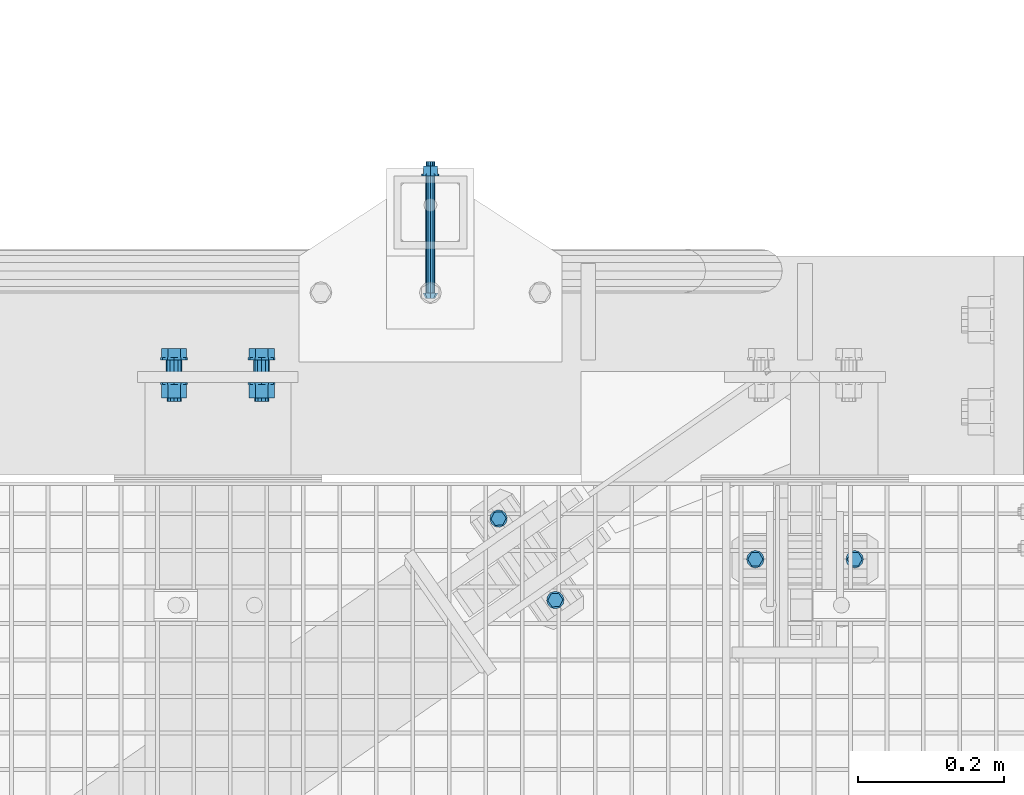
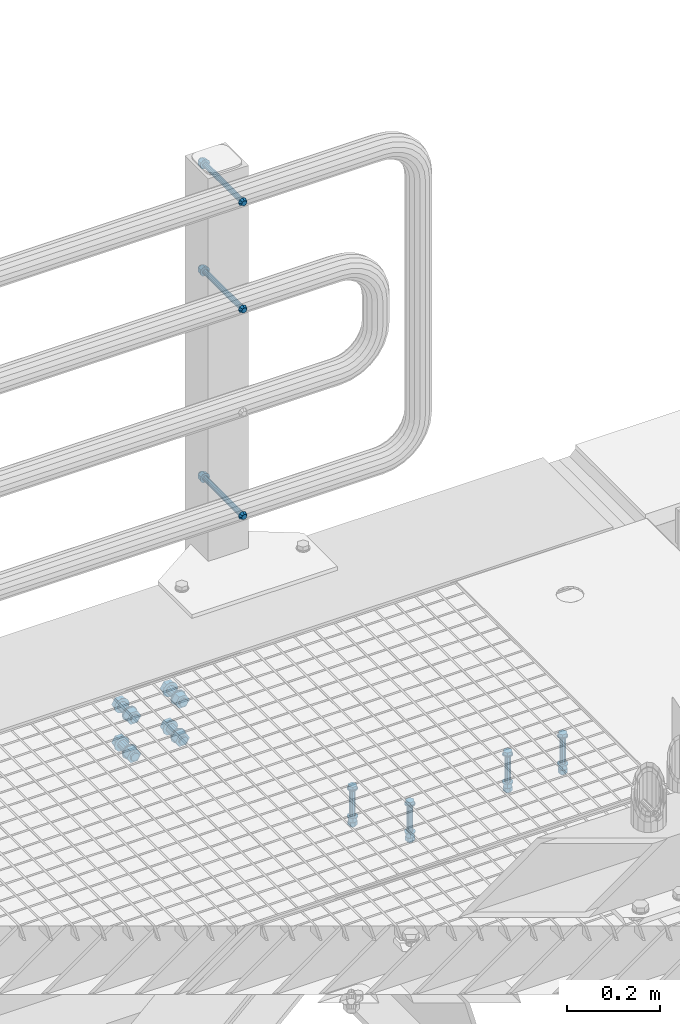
# One storey, part 57 of 1530: 6 mechanical fasteners.
"""IFC2X3 building model written with IfcOpenShell, lengths in millimetres."""

from ifc_helpers import new_model, si_unit, frame, origin_with_axes, place, context, subcontext, project, spatial, faceted_brep, source, transform, mapped, material, type_object, element, save


model = new_model("IFC2X3")

# Units and contexts
model_context = context("Model", 3, precision=1e-05, world=origin_with_axes())
body_context = subcontext(model_context, "Body", "Model", "MODEL_VIEW")
ifc_project = project(units=[si_unit("LENGTHUNIT", "METRE", prefix="MILLI"), si_unit("AREAUNIT", "SQUARE_METRE"), si_unit("VOLUMEUNIT", "CUBIC_METRE"), si_unit("MASSUNIT", "GRAM", prefix="KILO"), si_unit("TIMEUNIT", "SECOND"), si_unit("PLANEANGLEUNIT", "RADIAN"), si_unit("SOLIDANGLEUNIT", "STERADIAN"), si_unit("THERMODYNAMICTEMPERATUREUNIT", "DEGREE_CELSIUS"), si_unit("LUMINOUSINTENSITYUNIT", "LUMEN")], contexts=[model_context])

# Site, building, storey
site_placement = place(None, origin_with_axes())
site = spatial("IfcSite", under=ifc_project, at=site_placement, Name="Brattvåg", CompositionType="ELEMENT")
building_placement = place(site_placement, origin_with_axes())
building = spatial("IfcBuilding", under=site, at=building_placement, Name="Undefined", CompositionType="ELEMENT")
storey_placement = place(building_placement, origin_with_axes())
storey = spatial("IfcBuildingStorey", under=building, at=storey_placement, Name="Undefined", CompositionType="ELEMENT", Elevation=0.0)

# Mechanical fasteners
ifc_material = material(Name="8")
mechanical_fastener_type = type_object("IfcMechanicalFastenerType", Name="Bolt assembly")
shared_shape_1 = source(origin_with_axes(), body_context, "Body", "Brep", [
    faceted_brep([(10.3923048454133, -9.99999999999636, 0.0), (5.19615242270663, -9.99999999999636, 9.0), (-5.19615242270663, -9.99999999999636, 9.0), (-10.3923048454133, -9.99999999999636, 1.27269028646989e-15), (-5.19615242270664, -9.99999999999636, -9.0), (5.19615242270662, -9.99999999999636, -9.0), (5.19615242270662, -2.49999999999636, -9.0), (-5.19615242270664, -2.49999999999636, -9.0), (-10.3923048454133, -2.49999999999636, 1.27269028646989e-15), (-5.19615242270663, -2.49999999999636, 9.0), (5.19615242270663, -2.49999999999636, 9.0), (10.3923048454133, -2.49999999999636, 0.0), (6.0, -2.49999999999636, 0.0), (5.19615242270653, -2.49999999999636, 3.00000000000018), (2.99999999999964, -2.49999999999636, 5.19615242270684), (-6.21801588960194e-13, -2.49999999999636, 6.0), (-3.00000000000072, -2.49999999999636, 5.19615242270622), (-5.19615242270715, -2.49999999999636, 2.9999999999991), (-6.0, -2.49999999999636, -1.24360317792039e-12), (-5.19615242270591, -2.49999999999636, -3.00000000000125), (-2.99999999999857, -2.49999999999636, -5.19615242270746), (1.85874342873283e-12, -2.49999999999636, -6.0), (3.00000000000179, -2.49999999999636, -5.1961524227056), (5.19615242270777, -2.49999999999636, -2.99999999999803), (5.19615242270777, 97.4999999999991, -2.99999999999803), (3.00000000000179, 97.4999999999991, -5.1961524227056), (1.85874342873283e-12, 97.4999999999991, -6.0), (-2.99999999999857, 97.4999999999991, -5.19615242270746), (-5.19615242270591, 97.4999999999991, -3.00000000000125), (-6.0, 97.4999999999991, -1.24360317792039e-12), (-5.19615242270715, 97.4999999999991, 2.9999999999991), (-3.00000000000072, 97.4999999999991, 5.19615242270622), (-6.21801588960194e-13, 97.4999999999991, 6.0), (2.99999999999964, 97.4999999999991, 5.19615242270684), (5.19615242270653, 97.4999999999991, 3.00000000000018), (6.0, 97.4999999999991, 0.0), (12.0, -2.49999999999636, 0.0), (10.3923048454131, -2.49999999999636, 6.00000000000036), (5.99999999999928, -2.49999999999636, 10.3923048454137), (-1.24360317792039e-12, -2.49999999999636, 12.0), (-6.00000000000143, -2.49999999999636, 10.3923048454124), (-10.3923048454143, -2.49999999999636, 5.99999999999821), (-12.0, -2.49999999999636, -2.48720635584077e-12), (-10.3923048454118, -2.49999999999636, -6.00000000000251), (-5.99999999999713, -2.49999999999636, -10.3923048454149), (3.71748685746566e-12, -2.49999999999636, -12.0), (6.00000000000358, -2.49999999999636, -10.3923048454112), (10.3923048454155, -2.49999999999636, -5.99999999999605), (10.3923048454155, 3.63797880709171e-12, -5.99999999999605), (6.00000000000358, 3.63797880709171e-12, -10.3923048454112), (3.71748685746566e-12, 3.63797880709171e-12, -12.0), (-5.99999999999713, 3.63797880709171e-12, -10.3923048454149), (-10.3923048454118, 3.63797880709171e-12, -6.00000000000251), (-12.0, 3.63797880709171e-12, -2.48720635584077e-12), (-10.3923048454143, 3.63797880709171e-12, 5.99999999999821), (-6.00000000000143, 3.63797880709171e-12, 10.3923048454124), (-1.24360317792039e-12, 3.63797880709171e-12, 12.0), (5.99999999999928, 3.63797880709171e-12, 10.3923048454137), (10.3923048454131, 3.63797880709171e-12, 6.00000000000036), (12.0, 3.63797880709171e-12, 0.0), (12.0, 69.9999999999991, 0.0), (10.3923048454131, 69.9999999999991, 6.00000000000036), (5.99999999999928, 69.9999999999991, 10.3923048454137), (-1.24360317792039e-12, 69.9999999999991, 12.0), (-6.00000000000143, 69.9999999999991, 10.3923048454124), (-10.3923048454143, 69.9999999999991, 5.99999999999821), (-12.0, 69.9999999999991, -2.48720635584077e-12), (-10.3923048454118, 69.9999999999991, -6.00000000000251), (-5.99999999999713, 69.9999999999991, -10.3923048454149), (3.71748685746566e-12, 69.9999999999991, -12.0), (6.00000000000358, 69.9999999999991, -10.3923048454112), (10.3923048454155, 69.9999999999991, -5.99999999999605), (10.3923048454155, 72.4999999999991, -5.99999999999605), (6.00000000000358, 72.4999999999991, -10.3923048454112), (3.71748685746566e-12, 72.4999999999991, -12.0), (-5.99999999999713, 72.4999999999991, -10.3923048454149), (-10.3923048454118, 72.4999999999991, -6.00000000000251), (-12.0, 72.4999999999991, -2.48720635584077e-12), (-10.3923048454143, 72.4999999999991, 5.99999999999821), (-6.00000000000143, 72.4999999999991, 10.3923048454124), (-1.24360317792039e-12, 72.4999999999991, 12.0), (5.99999999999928, 72.4999999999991, 10.3923048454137), (10.3923048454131, 72.4999999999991, 6.00000000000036), (12.0, 72.4999999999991, 0.0), (10.3923048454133, 72.4999999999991, 0.0), (5.19615242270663, 72.4999999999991, 9.0), (-5.19615242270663, 72.4999999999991, 9.0), (-10.3923048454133, 72.4999999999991, 1.27269028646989e-15), (-5.19615242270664, 72.4999999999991, -9.0), (5.19615242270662, 72.4999999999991, -9.0), (5.19615242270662, 83.300000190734, -9.0), (-5.19615242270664, 83.300000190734, -9.0), (-10.3923048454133, 83.300000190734, 1.27269028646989e-15), (-5.19615242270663, 83.300000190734, 9.0), (5.19615242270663, 83.300000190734, 9.0), (10.3923048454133, 83.300000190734, 0.0), (9.0, 83.300000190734, 5.19615242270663), (6.36345143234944e-16, 83.300000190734, 10.3923048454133), (-9.0, 83.300000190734, 5.19615242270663), (-9.0, 83.300000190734, -5.19615242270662), (-1.11392563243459e-14, 83.300000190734, -10.3923048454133), (8.99999999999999, 83.300000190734, -5.19615242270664), (8.99999999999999, 94.1000003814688, -5.19615242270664), (-1.11392563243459e-14, 94.1000003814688, -10.3923048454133), (-9.0, 94.1000003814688, -5.19615242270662), (-9.0, 94.1000003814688, 5.19615242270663), (6.36345143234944e-16, 94.1000003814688, 10.3923048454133), (9.0, 94.1000003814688, 5.19615242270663)], [[[0, 1, 2, 3, 4, 5]], [[6, 7, 8, 9, 10, 11]], [[0, 11, 10, 1]], [[1, 10, 9, 2]], [[2, 9, 8, 3]], [[3, 8, 7, 4]], [[4, 7, 6, 5]], [[5, 6, 11, 0]], [[12, 13, 14, 15, 16, 17, 18, 19, 20, 21, 22, 23]], [[24, 25, 26, 27, 28, 29, 30, 31, 32, 33, 34, 35]], [[12, 35, 34, 13]], [[13, 34, 33, 14]], [[14, 33, 32, 15]], [[15, 32, 31, 16]], [[16, 31, 30, 17]], [[17, 30, 29, 18]], [[18, 29, 28, 19]], [[19, 28, 27, 20]], [[20, 27, 26, 21]], [[21, 26, 25, 22]], [[22, 25, 24, 23]], [[23, 24, 35, 12]], [[36, 37, 38, 39, 40, 41, 42, 43, 44, 45, 46, 47]], [[48, 49, 50, 51, 52, 53, 54, 55, 56, 57, 58, 59]], [[36, 59, 58, 37]], [[37, 58, 57, 38]], [[38, 57, 56, 39]], [[39, 56, 55, 40]], [[40, 55, 54, 41]], [[41, 54, 53, 42]], [[42, 53, 52, 43]], [[43, 52, 51, 44]], [[44, 51, 50, 45]], [[45, 50, 49, 46]], [[46, 49, 48, 47]], [[47, 48, 59, 36]], [[60, 61, 62, 63, 64, 65, 66, 67, 68, 69, 70, 71]], [[72, 73, 74, 75, 76, 77, 78, 79, 80, 81, 82, 83]], [[60, 83, 82, 61]], [[61, 82, 81, 62]], [[62, 81, 80, 63]], [[63, 80, 79, 64]], [[64, 79, 78, 65]], [[65, 78, 77, 66]], [[66, 77, 76, 67]], [[67, 76, 75, 68]], [[68, 75, 74, 69]], [[69, 74, 73, 70]], [[70, 73, 72, 71]], [[71, 72, 83, 60]], [[84, 85, 86, 87, 88, 89]], [[90, 91, 92, 93, 94, 95]], [[84, 95, 94, 85]], [[85, 94, 93, 86]], [[86, 93, 92, 87]], [[87, 92, 91, 88]], [[88, 91, 90, 89]], [[89, 90, 95, 84]], [[96, 97, 98, 99, 100, 101]], [[102, 103, 104, 105, 106, 107]], [[96, 107, 106, 97]], [[97, 106, 105, 98]], [[98, 105, 104, 99]], [[99, 104, 103, 100]], [[100, 103, 102, 101]], [[101, 102, 107, 96]]]),
    faceted_brep([(7.0, -9.09494701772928e-13, 0.0), (6.06217782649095, -9.09494701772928e-13, 3.50000000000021), (3.49999999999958, -9.09494701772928e-13, 6.06217782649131), (-7.25435187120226e-13, -9.09494701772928e-13, 7.0), (-3.50000000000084, -9.09494701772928e-13, 6.06217782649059), (-6.06217782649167, -9.09494701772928e-13, 3.49999999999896), (-7.0, -9.09494701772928e-13, -1.45087037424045e-12), (-6.06217782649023, -9.09494701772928e-13, -3.50000000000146), (-3.49999999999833, -9.09494701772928e-13, -6.06217782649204), (2.1685340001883e-12, -9.09494701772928e-13, -7.0), (3.50000000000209, -9.09494701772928e-13, -6.06217782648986), (6.0621778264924, -9.09494701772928e-13, -3.4999999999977), (6.0621778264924, 70.0999999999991, -3.4999999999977), (3.50000000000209, 70.0999999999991, -6.06217782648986), (2.1685340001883e-12, 70.0999999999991, -7.0), (-3.49999999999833, 70.0999999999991, -6.06217782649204), (-6.06217782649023, 70.0999999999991, -3.50000000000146), (-7.0, 70.0999999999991, -1.45087037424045e-12), (-6.06217782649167, 70.0999999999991, 3.49999999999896), (-3.50000000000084, 70.0999999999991, 6.06217782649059), (-7.25435187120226e-13, 70.0999999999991, 7.0), (3.49999999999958, 70.0999999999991, 6.06217782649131), (6.06217782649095, 70.0999999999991, 3.50000000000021), (7.0, 70.0999999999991, 0.0)], [[[0, 1, 2, 3, 4, 5, 6, 7, 8, 9, 10, 11]], [[12, 13, 14, 15, 16, 17, 18, 19, 20, 21, 22, 23]], [[0, 23, 22, 1]], [[1, 22, 21, 2]], [[2, 21, 20, 3]], [[3, 20, 19, 4]], [[4, 19, 18, 5]], [[5, 18, 17, 6]], [[6, 17, 16, 7]], [[7, 16, 15, 8]], [[8, 15, 14, 9]], [[9, 14, 13, 10]], [[10, 13, 12, 11]], [[11, 12, 23, 0]]]),
])
for number, where, z_axis, x_axis, name in (
    (1, (16490.0031207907, 8734.9958766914, -410.000000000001), (0.0, 1.0, 0.0), (1.0, 0.0, 0.0), "Bolt assembly"),
    (2, (16138.3722284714, 8790.63263868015, -410.000000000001), (0.820625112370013, 0.571466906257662, 0.0), (0.571466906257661, -0.820625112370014, 0.0), "Bolt assembly"),
):
    element("IfcMechanicalFastener", number, at=place(storey_placement, frame(where, z_axis=z_axis, x_axis=x_axis)), inside=storey, type_object=mechanical_fastener_type, material=ifc_material, Name=name, NominalDiameter=12.0, NominalLength=100.0, context=body_context, shape_type="MappedRepresentation", body=[
        mapped(shared_shape_1, transform((0.0, 0.0, 0.0))),
        mapped(shared_shape_1, transform((136.0, 0.0, 0.0))),
    ])
shared_shape_2 = source(origin_with_axes(), body_context, "Body", "Brep", [
    faceted_brep([(6.49435320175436, -7.49984019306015, 0.0), (4.59220118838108, -7.49984019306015, 4.59220118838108), (3.97664443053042e-16, -7.49984019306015, 6.49435320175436), (-4.59220118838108, -7.49984019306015, 4.59220118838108), (-6.49435320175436, -7.49984019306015, 7.95328886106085e-16), (-4.59220118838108, -7.49984019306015, -4.59220118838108), (-1.19299332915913e-15, -7.49984019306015, -6.49435320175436), (4.59220118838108, -7.49984019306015, -4.59220118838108), (7.34846922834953, 0.000159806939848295, -7.34846922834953), (-1.90903542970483e-15, 0.000159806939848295, -10.3923048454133), (-7.34846922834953, 0.000159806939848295, -7.34846922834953), (-10.3923048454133, 0.000159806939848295, 1.27269028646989e-15), (-7.34846922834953, 0.000159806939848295, 7.34846922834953), (6.36345143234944e-16, 0.000159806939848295, 10.3923048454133), (7.34846922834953, 0.000159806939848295, 7.34846922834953), (10.3923048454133, 0.000159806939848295, 0.0), (6.0, 0.000159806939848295, 0.0), (5.19615242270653, 0.000159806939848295, 3.00000000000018), (2.99999999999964, 0.000159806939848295, 5.19615242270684), (-6.21801588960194e-13, 0.000159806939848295, 6.0), (-3.00000000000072, 0.000159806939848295, 5.19615242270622), (-5.19615242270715, 0.000159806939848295, 2.9999999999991), (-6.0, 0.000159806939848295, -1.24360317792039e-12), (-5.19615242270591, 0.000159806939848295, -3.00000000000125), (-2.99999999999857, 0.000159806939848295, -5.19615242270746), (1.85874342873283e-12, 0.000159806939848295, -6.0), (3.00000000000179, 0.000159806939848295, -5.1961524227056), (5.19615242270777, 0.000159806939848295, -2.99999999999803), (5.19615242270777, 180.00015980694, -2.99999999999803), (3.00000000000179, 180.00015980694, -5.1961524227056), (1.85874342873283e-12, 180.00015980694, -6.0), (-2.99999999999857, 180.00015980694, -5.19615242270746), (-5.19615242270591, 180.00015980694, -3.00000000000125), (-6.0, 180.00015980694, -1.24360317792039e-12), (-5.19615242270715, 180.00015980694, 2.9999999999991), (-3.00000000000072, 180.00015980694, 5.19615242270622), (-6.21801588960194e-13, 180.00015980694, 6.0), (2.99999999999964, 180.00015980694, 5.19615242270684), (5.19615242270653, 180.00015980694, 3.00000000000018), (6.0, 180.00015980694, 0.0), (12.0, 160.299998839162, 0.0), (10.3923048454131, 160.299998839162, 6.00000000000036), (5.99999999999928, 160.299998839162, 10.3923048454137), (-1.24360317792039e-12, 160.299998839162, 12.0), (-6.00000000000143, 160.299998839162, 10.3923048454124), (-10.3923048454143, 160.299998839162, 5.99999999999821), (-12.0, 160.299998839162, -2.48720635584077e-12), (-10.3923048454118, 160.299998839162, -6.00000000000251), (-5.99999999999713, 160.299998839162, -10.3923048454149), (3.71748685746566e-12, 160.299998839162, -12.0), (6.00000000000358, 160.299998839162, -10.3923048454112), (10.3923048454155, 160.299998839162, -5.99999999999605), (10.3923048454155, 162.799998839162, -5.99999999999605), (6.00000000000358, 162.799998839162, -10.3923048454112), (3.71748685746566e-12, 162.799998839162, -12.0), (-5.99999999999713, 162.799998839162, -10.3923048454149), (-10.3923048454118, 162.799998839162, -6.00000000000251), (-12.0, 162.799998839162, -2.48720635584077e-12), (-10.3923048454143, 162.799998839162, 5.99999999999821), (-6.00000000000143, 162.799998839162, 10.3923048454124), (-1.24360317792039e-12, 162.799998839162, 12.0), (5.99999999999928, 162.799998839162, 10.3923048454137), (10.3923048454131, 162.799998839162, 6.00000000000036), (12.0, 162.799998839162, 0.0), (10.9696551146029, 162.799998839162, 0.0), (5.48482755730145, 162.799998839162, 9.5), (-5.48482755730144, 162.799998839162, 9.5), (-10.9696551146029, 162.799998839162, 1.34339530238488e-15), (-5.48482755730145, 162.799998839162, -9.5), (5.48482755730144, 162.799998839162, -9.5), (5.48482755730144, 173.599999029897, -9.5), (-5.48482755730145, 173.599999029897, -9.5), (-10.9696551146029, 173.599999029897, 1.34339530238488e-15), (-5.48482755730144, 173.599999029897, 9.5), (5.48482755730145, 173.599999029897, 9.5), (10.9696551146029, 173.599999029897, 0.0)], [[[0, 1, 2, 3, 4, 5, 6, 7]], [[8, 9, 10, 11, 12, 13, 14, 15]], [[0, 15, 14, 1]], [[1, 14, 13, 2]], [[2, 13, 12, 3]], [[3, 12, 11, 4]], [[4, 11, 10, 5]], [[5, 10, 9, 6]], [[6, 9, 8, 7]], [[7, 8, 15, 0]], [[16, 17, 18, 19, 20, 21, 22, 23, 24, 25, 26, 27]], [[28, 29, 30, 31, 32, 33, 34, 35, 36, 37, 38, 39]], [[16, 39, 38, 17]], [[17, 38, 37, 18]], [[18, 37, 36, 19]], [[19, 36, 35, 20]], [[20, 35, 34, 21]], [[21, 34, 33, 22]], [[22, 33, 32, 23]], [[23, 32, 31, 24]], [[24, 31, 30, 25]], [[25, 30, 29, 26]], [[26, 29, 28, 27]], [[27, 28, 39, 16]], [[40, 41, 42, 43, 44, 45, 46, 47, 48, 49, 50, 51]], [[52, 53, 54, 55, 56, 57, 58, 59, 60, 61, 62, 63]], [[40, 63, 62, 41]], [[41, 62, 61, 42]], [[42, 61, 60, 43]], [[43, 60, 59, 44]], [[44, 59, 58, 45]], [[45, 58, 57, 46]], [[46, 57, 56, 47]], [[47, 56, 55, 48]], [[48, 55, 54, 49]], [[49, 54, 53, 50]], [[50, 53, 52, 51]], [[51, 52, 63, 40]], [[64, 65, 66, 67, 68, 69]], [[70, 71, 72, 73, 74, 75]], [[64, 75, 74, 65]], [[65, 74, 73, 66]], [[66, 73, 72, 67]], [[67, 72, 71, 68]], [[68, 71, 70, 69]], [[69, 70, 75, 64]]]),
    faceted_brep([(6.5, 0.100159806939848, 0.0), (5.62916512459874, 0.100159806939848, 3.25000000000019), (3.24999999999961, 0.100159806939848, 5.62916512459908), (-6.7361838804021e-13, 0.100159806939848, 6.5), (-3.25000000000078, 0.100159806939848, 5.6291651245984), (-5.62916512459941, 0.100159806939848, 3.24999999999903), (-6.5, 0.100159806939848, -1.34723677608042e-12), (-5.62916512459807, 0.100159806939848, -3.25000000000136), (-3.24999999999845, 0.100159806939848, -5.62916512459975), (2.01363871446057e-12, 0.100159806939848, -6.5), (3.25000000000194, 0.100159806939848, -5.62916512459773), (5.62916512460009, 0.100159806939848, -3.24999999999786), (5.62916512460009, 60.4001552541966, -3.24999999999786), (3.25000000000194, 60.4001552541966, -5.62916512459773), (2.01363871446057e-12, 60.4001552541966, -6.5), (-3.24999999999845, 60.4001552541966, -5.62916512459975), (-5.62916512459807, 60.4001552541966, -3.25000000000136), (-6.5, 60.4001552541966, -1.34723677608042e-12), (-5.62916512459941, 60.4001552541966, 3.24999999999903), (-3.25000000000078, 60.4001552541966, 5.6291651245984), (-6.7361838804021e-13, 60.4001552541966, 6.5), (3.24999999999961, 60.4001552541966, 5.62916512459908), (5.62916512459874, 60.4001552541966, 3.25000000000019), (6.5, 60.4001552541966, 0.0), (6.5, 60.1999988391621, 0.0), (5.62916512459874, 60.1999988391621, 3.25000000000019), (3.24999999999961, 60.1999988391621, 5.62916512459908), (-6.7361838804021e-13, 60.1999988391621, 6.5), (-3.25000000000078, 60.1999988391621, 5.6291651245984), (-5.62916512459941, 60.1999988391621, 3.24999999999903), (-6.5, 60.1999988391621, -1.34723677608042e-12), (-5.62916512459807, 60.1999988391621, -3.25000000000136), (-3.24999999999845, 60.1999988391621, -5.62916512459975), (2.01363871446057e-12, 60.1999988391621, -6.5), (3.25000000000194, 60.1999988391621, -5.62916512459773), (5.62916512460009, 60.1999988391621, -3.24999999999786), (5.62916512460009, 160.299998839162, -3.24999999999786), (3.25000000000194, 160.299998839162, -5.62916512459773), (2.01363871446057e-12, 160.299998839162, -6.5), (-3.24999999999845, 160.299998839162, -5.62916512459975), (-5.62916512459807, 160.299998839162, -3.25000000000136), (-6.5, 160.299998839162, -1.34723677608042e-12), (-5.62916512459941, 160.299998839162, 3.24999999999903), (-3.25000000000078, 160.299998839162, 5.6291651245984), (-6.7361838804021e-13, 160.299998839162, 6.5), (3.24999999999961, 160.299998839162, 5.62916512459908), (5.62916512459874, 160.299998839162, 3.25000000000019), (6.5, 160.299998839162, 0.0)], [[[0, 1, 2, 3, 4, 5, 6, 7, 8, 9, 10, 11]], [[12, 13, 14, 15, 16, 17, 18, 19, 20, 21, 22, 23]], [[0, 23, 22, 1]], [[1, 22, 21, 2]], [[2, 21, 20, 3]], [[3, 20, 19, 4]], [[4, 19, 18, 5]], [[5, 18, 17, 6]], [[6, 17, 16, 7]], [[7, 16, 15, 8]], [[8, 15, 14, 9]], [[9, 14, 13, 10]], [[10, 13, 12, 11]], [[11, 12, 23, 0]], [[24, 25, 26, 27, 28, 29, 30, 31, 32, 33, 34, 35]], [[36, 37, 38, 39, 40, 41, 42, 43, 44, 45, 46, 47]], [[24, 47, 46, 25]], [[25, 46, 45, 26]], [[26, 45, 44, 27]], [[27, 44, 43, 28]], [[28, 43, 42, 29]], [[29, 42, 41, 30]], [[30, 41, 40, 31]], [[31, 40, 39, 32]], [[32, 39, 38, 33]], [[33, 38, 37, 34]], [[34, 37, 36, 35]], [[35, 36, 47, 24]]]),
])
for number, where, z_axis, x_axis, name in (
    (3, (16044.9999999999, 9099.69972268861, 149.550000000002), (1.0, 0.0, 0.0), (0.0, 0.0, -1.0), "Bolt assembly"),
    (4, (16044.9999999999, 9099.69972268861, 969.550000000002), (1.0, 0.0, 0.0), (0.0, 0.0, -1.0), "Bolt assembly"),
    (5, (16044.9999999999, 9099.69972268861, 689.550000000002), (1.0, 0.0, 0.0), (0.0, 0.0, -1.0), "Bolt assembly"),
):
    element("IfcMechanicalFastener", number, at=place(storey_placement, frame(where, z_axis=z_axis, x_axis=x_axis)), inside=storey, type_object=mechanical_fastener_type, material=ifc_material, Name=name, NominalDiameter=12.0, NominalLength=180.0, context=body_context, shape_type="MappedRepresentation", body=[
        mapped(shared_shape_2, transform((0.0, 0.0, 0.0))),
    ])
shared_shape_3 = source(origin_with_axes(), body_context, "Body", "Brep", [
    faceted_brep([(17.3205080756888, -31.4985046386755, 0.0), (8.66025403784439, -31.4985046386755, 15.0), (-8.66025403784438, -31.4985046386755, 15.0), (-17.3205080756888, -31.4985046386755, 2.12115047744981e-15), (-8.66025403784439, -31.4985046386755, -15.0), (8.66025403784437, -31.4985046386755, -15.0), (8.66025403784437, -18.9985046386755, -15.0), (-8.66025403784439, -18.9985046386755, -15.0), (-17.3205080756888, -18.9985046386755, 2.12115047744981e-15), (-8.66025403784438, -18.9985046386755, 15.0), (8.66025403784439, -18.9985046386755, 15.0), (17.3205080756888, -18.9985046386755, 0.0), (10.0, -18.9985046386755, 0.0), (8.66025403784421, -18.9985046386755, 5.0000000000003), (4.9999999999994, -18.9985046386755, 8.66025403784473), (-1.03633598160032e-12, -18.9985046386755, 10.0), (-5.00000000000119, -18.9985046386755, 8.6602540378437), (-8.66025403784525, -18.9985046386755, 4.99999999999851), (-10.0, -18.9985046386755, -2.07267196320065e-12), (-8.66025403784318, -18.9985046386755, -5.00000000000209), (-4.99999999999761, -18.9985046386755, -8.66025403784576), (3.09790571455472e-12, -18.9985046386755, -10.0), (5.00000000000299, -18.9985046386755, -8.66025403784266), (8.66025403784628, -18.9985046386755, -4.99999999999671), (8.66025403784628, 41.0014953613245, -4.99999999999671), (5.00000000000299, 41.0014953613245, -8.66025403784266), (3.09790571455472e-12, 41.0014953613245, -10.0), (-4.99999999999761, 41.0014953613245, -8.66025403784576), (-8.66025403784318, 41.0014953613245, -5.00000000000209), (-10.0, 41.0014953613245, -2.07267196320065e-12), (-8.66025403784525, 41.0014953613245, 4.99999999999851), (-5.00000000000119, 41.0014953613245, 8.6602540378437), (-1.03633598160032e-12, 41.0014953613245, 10.0), (4.9999999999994, 41.0014953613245, 8.66025403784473), (8.66025403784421, 41.0014953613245, 5.0000000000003), (10.0, 41.0014953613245, 0.0), (18.5, -18.9985046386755, 0.0), (16.0214699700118, -18.9985046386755, 9.25000000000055), (9.2499999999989, -18.9985046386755, 16.0214699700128), (-1.9172215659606e-12, -18.9985046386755, 18.5), (-9.25000000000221, -18.9985046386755, 16.0214699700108), (-16.0214699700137, -18.9985046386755, 9.24999999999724), (-18.5, -18.9985046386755, -3.83444313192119e-12), (-16.0214699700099, -18.9985046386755, -9.25000000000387), (-9.24999999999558, -18.9985046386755, -16.0214699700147), (5.73112557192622e-12, -18.9985046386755, -18.5), (9.25000000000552, -18.9985046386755, -16.0214699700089), (16.0214699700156, -18.9985046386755, -9.24999999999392), (16.0214699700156, -15.9985046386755, -9.24999999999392), (9.25000000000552, -15.9985046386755, -16.0214699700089), (5.73112557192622e-12, -15.9985046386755, -18.5), (-9.24999999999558, -15.9985046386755, -16.0214699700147), (-16.0214699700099, -15.9985046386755, -9.25000000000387), (-18.5, -15.9985046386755, -3.83444313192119e-12), (-16.0214699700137, -15.9985046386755, 9.24999999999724), (-9.25000000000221, -15.9985046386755, 16.0214699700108), (-1.9172215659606e-12, -15.9985046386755, 18.5), (9.2499999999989, -15.9985046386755, 16.0214699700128), (16.0214699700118, -15.9985046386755, 9.25000000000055), (18.5, -15.9985046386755, 0.0), (18.5, 15.0000000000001, 0.0), (16.0214699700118, 15.0000000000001, 9.25000000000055), (9.2499999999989, 15.0000000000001, 16.0214699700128), (-1.9172215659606e-12, 15.0000000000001, 18.5), (-9.25000000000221, 15.0000000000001, 16.0214699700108), (-16.0214699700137, 15.0000000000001, 9.24999999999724), (-18.5, 15.0000000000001, -3.83444313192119e-12), (-16.0214699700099, 15.0000000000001, -9.25000000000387), (-9.24999999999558, 15.0000000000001, -16.0214699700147), (5.73112557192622e-12, 15.0000000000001, -18.5), (9.25000000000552, 15.0000000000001, -16.0214699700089), (16.0214699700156, 15.0000000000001, -9.24999999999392), (16.0214699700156, 18.0000000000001, -9.24999999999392), (9.25000000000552, 18.0000000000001, -16.0214699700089), (5.73112557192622e-12, 18.0000000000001, -18.5), (-9.24999999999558, 18.0000000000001, -16.0214699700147), (-16.0214699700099, 18.0000000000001, -9.25000000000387), (-18.5, 18.0000000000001, -3.83444313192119e-12), (-16.0214699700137, 18.0000000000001, 9.24999999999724), (-9.25000000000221, 18.0000000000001, 16.0214699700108), (-1.9172215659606e-12, 18.0000000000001, 18.5), (9.2499999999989, 18.0000000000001, 16.0214699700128), (16.0214699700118, 18.0000000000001, 9.25000000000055), (18.5, 18.0000000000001, 0.0), (17.3205080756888, 18.0000000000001, 0.0), (8.66025403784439, 18.0000000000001, 15.0), (-8.66025403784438, 18.0000000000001, 15.0), (-17.3205080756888, 18.0000000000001, 2.12115047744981e-15), (-8.66025403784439, 18.0000000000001, -15.0), (8.66025403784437, 18.0000000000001, -15.0), (8.66025403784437, 36.0000000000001, -15.0), (-8.66025403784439, 36.0000000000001, -15.0), (-17.3205080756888, 36.0000000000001, 2.12115047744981e-15), (-8.66025403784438, 36.0000000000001, 15.0), (8.66025403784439, 36.0000000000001, 15.0), (17.3205080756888, 36.0000000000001, 0.0)], [[[0, 1, 2, 3, 4, 5]], [[6, 7, 8, 9, 10, 11]], [[0, 11, 10, 1]], [[1, 10, 9, 2]], [[2, 9, 8, 3]], [[3, 8, 7, 4]], [[4, 7, 6, 5]], [[5, 6, 11, 0]], [[12, 13, 14, 15, 16, 17, 18, 19, 20, 21, 22, 23]], [[24, 25, 26, 27, 28, 29, 30, 31, 32, 33, 34, 35]], [[12, 35, 34, 13]], [[13, 34, 33, 14]], [[14, 33, 32, 15]], [[15, 32, 31, 16]], [[16, 31, 30, 17]], [[17, 30, 29, 18]], [[18, 29, 28, 19]], [[19, 28, 27, 20]], [[20, 27, 26, 21]], [[21, 26, 25, 22]], [[22, 25, 24, 23]], [[23, 24, 35, 12]], [[36, 37, 38, 39, 40, 41, 42, 43, 44, 45, 46, 47]], [[48, 49, 50, 51, 52, 53, 54, 55, 56, 57, 58, 59]], [[36, 59, 58, 37]], [[37, 58, 57, 38]], [[38, 57, 56, 39]], [[39, 56, 55, 40]], [[40, 55, 54, 41]], [[41, 54, 53, 42]], [[42, 53, 52, 43]], [[43, 52, 51, 44]], [[44, 51, 50, 45]], [[45, 50, 49, 46]], [[46, 49, 48, 47]], [[47, 48, 59, 36]], [[60, 61, 62, 63, 64, 65, 66, 67, 68, 69, 70, 71]], [[72, 73, 74, 75, 76, 77, 78, 79, 80, 81, 82, 83]], [[60, 83, 82, 61]], [[61, 82, 81, 62]], [[62, 81, 80, 63]], [[63, 80, 79, 64]], [[64, 79, 78, 65]], [[65, 78, 77, 66]], [[66, 77, 76, 67]], [[67, 76, 75, 68]], [[68, 75, 74, 69]], [[69, 74, 73, 70]], [[70, 73, 72, 71]], [[71, 72, 83, 60]], [[84, 85, 86, 87, 88, 89]], [[90, 91, 92, 93, 94, 95]], [[84, 95, 94, 85]], [[85, 94, 93, 86]], [[86, 93, 92, 87]], [[87, 92, 91, 88]], [[88, 91, 90, 89]], [[89, 90, 95, 84]]]),
    faceted_brep([(11.0, -15.8985046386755, 0.0), (9.52627944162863, -15.8985046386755, 5.50000000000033), (5.49999999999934, -15.8985046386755, 9.5262794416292), (-1.13996957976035e-12, -15.8985046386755, 11.0), (-5.50000000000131, -15.8985046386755, 9.52627944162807), (-9.52627944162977, -15.8985046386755, 5.49999999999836), (-11.0, -15.8985046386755, -2.27993915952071e-12), (-9.5262794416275, -15.8985046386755, -5.5000000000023), (-5.49999999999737, -15.8985046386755, -9.52627944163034), (3.40769628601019e-12, -15.8985046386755, -11.0), (5.50000000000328, -15.8985046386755, -9.52627944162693), (9.52627944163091, -15.8985046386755, -5.49999999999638), (9.52627944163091, 0.101495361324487, -5.49999999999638), (5.50000000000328, 0.101495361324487, -9.52627944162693), (3.40769628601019e-12, 0.101495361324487, -11.0), (-5.49999999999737, 0.101495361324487, -9.52627944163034), (-9.5262794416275, 0.101495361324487, -5.5000000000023), (-11.0, 0.101495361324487, -2.27993915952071e-12), (-9.52627944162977, 0.101495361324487, 5.49999999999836), (-5.50000000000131, 0.101495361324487, 9.52627944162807), (-1.13996957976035e-12, 0.101495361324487, 11.0), (5.49999999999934, 0.101495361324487, 9.5262794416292), (9.52627944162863, 0.101495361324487, 5.50000000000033), (11.0, 0.101495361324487, 0.0), (11.0, -0.1, 0.0), (9.52627944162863, -0.1, 5.50000000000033), (5.49999999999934, -0.1, 9.5262794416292), (-1.13996957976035e-12, -0.1, 11.0), (-5.50000000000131, -0.1, 9.52627944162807), (-9.52627944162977, -0.1, 5.49999999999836), (-11.0, -0.1, -2.27993915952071e-12), (-9.5262794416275, -0.1, -5.5000000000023), (-5.49999999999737, -0.1, -9.52627944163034), (3.40769628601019e-12, -0.1, -11.0), (5.50000000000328, -0.1, -9.52627944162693), (9.52627944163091, -0.1, -5.49999999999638), (9.52627944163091, 15.0000000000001, -5.49999999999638), (5.50000000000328, 15.0000000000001, -9.52627944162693), (3.40769628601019e-12, 15.0000000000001, -11.0), (-5.49999999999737, 15.0000000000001, -9.52627944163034), (-9.5262794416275, 15.0000000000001, -5.5000000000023), (-11.0, 15.0000000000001, -2.27993915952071e-12), (-9.52627944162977, 15.0000000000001, 5.49999999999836), (-5.50000000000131, 15.0000000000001, 9.52627944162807), (-1.13996957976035e-12, 15.0000000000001, 11.0), (5.49999999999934, 15.0000000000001, 9.5262794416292), (9.52627944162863, 15.0000000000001, 5.50000000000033), (11.0, 15.0000000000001, 0.0)], [[[0, 1, 2, 3, 4, 5, 6, 7, 8, 9, 10, 11]], [[12, 13, 14, 15, 16, 17, 18, 19, 20, 21, 22, 23]], [[0, 23, 22, 1]], [[1, 22, 21, 2]], [[2, 21, 20, 3]], [[3, 20, 19, 4]], [[4, 19, 18, 5]], [[5, 18, 17, 6]], [[6, 17, 16, 7]], [[7, 16, 15, 8]], [[8, 15, 14, 9]], [[9, 14, 13, 10]], [[10, 13, 12, 11]], [[11, 12, 23, 0]], [[24, 25, 26, 27, 28, 29, 30, 31, 32, 33, 34, 35]], [[36, 37, 38, 39, 40, 41, 42, 43, 44, 45, 46, 47]], [[24, 47, 46, 25]], [[25, 46, 45, 26]], [[26, 45, 44, 27]], [[27, 44, 43, 28]], [[28, 43, 42, 29]], [[29, 42, 41, 30]], [[30, 41, 40, 31]], [[31, 40, 39, 32]], [[32, 39, 38, 33]], [[33, 38, 37, 34]], [[34, 37, 36, 35]], [[35, 36, 47, 24]]]),
])
mechanical_fastener_placement = place(storey_placement, frame((15814.0019683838, 8992.00149536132, -219.998836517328), z_axis=(0.0, 0.0, 1.0), x_axis=(-1.0, 1.99999855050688e-09, 0.0)))
element("IfcMechanicalFastener", 6, at=mechanical_fastener_placement, inside=storey, type_object=mechanical_fastener_type, material=ifc_material, Name="Bolt assembly", NominalDiameter=20.0, NominalLength=60.0, context=body_context, shape_type="MappedRepresentation", body=[
    mapped(shared_shape_3, transform((0.0, 0.0, -50.0))),
    mapped(shared_shape_3, transform((120.0, 0.0, -50.0))),
    mapped(shared_shape_3, transform((0.0, 0.0, 50.0))),
    mapped(shared_shape_3, transform((120.0, 0.0, 50.0))),
])

save(model, "model.ifc")
